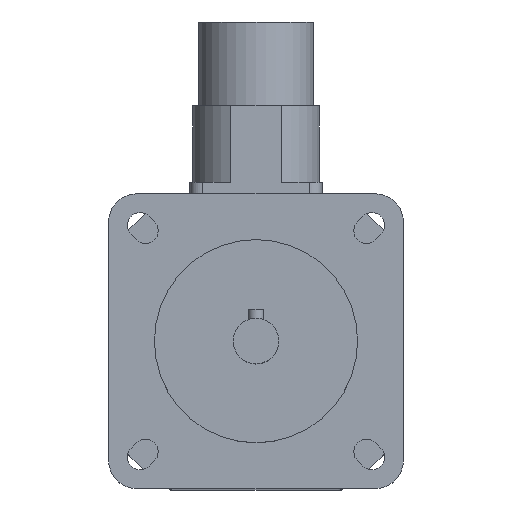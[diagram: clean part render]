
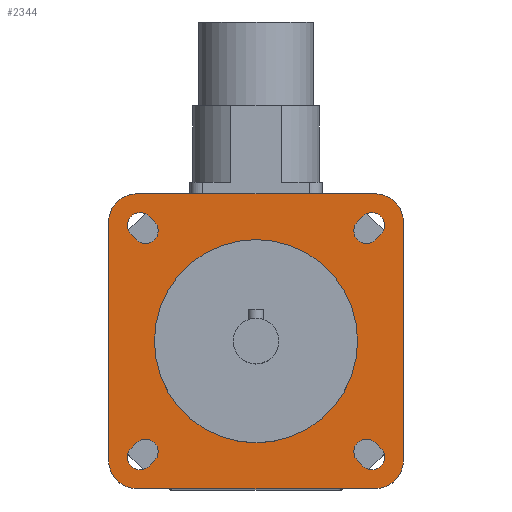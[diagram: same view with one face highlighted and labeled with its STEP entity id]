
A CAD part, top view. The second image highlights one B-rep face of the part: STEP entity #2344.
In plain terms, the highlighted planar face has unit normal (0, 0, 1).
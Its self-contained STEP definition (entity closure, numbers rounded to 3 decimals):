
#28=FACE_BOUND('',#421,.T.);
#29=FACE_BOUND('',#422,.T.);
#30=FACE_BOUND('',#423,.T.);
#31=FACE_BOUND('',#424,.T.);
#32=FACE_BOUND('',#425,.T.);
#46=CIRCLE('',#2435,20.);
#83=CIRCLE('',#2499,2.5);
#87=CIRCLE('',#2506,2.5);
#88=CIRCLE('',#2509,2.5);
#89=CIRCLE('',#2512,2.5);
#99=CIRCLE('',#2527,2.5);
#100=CIRCLE('',#2530,2.5);
#101=CIRCLE('',#2533,2.5);
#102=CIRCLE('',#2536,2.5);
#103=CIRCLE('',#2538,5.5);
#104=CIRCLE('',#2540,5.5);
#105=CIRCLE('',#2542,5.5);
#106=CIRCLE('',#2544,5.5);
#281=FACE_OUTER_BOUND('',#420,.T.);
#420=EDGE_LOOP('',(#1806,#1807,#1808,#1809,#1810,#1811,#1812,#1813));
#421=EDGE_LOOP('',(#1814));
#422=EDGE_LOOP('',(#1815,#1816,#1817,#1818));
#423=EDGE_LOOP('',(#1819,#1820,#1821,#1822));
#424=EDGE_LOOP('',(#1823,#1824,#1825,#1826));
#425=EDGE_LOOP('',(#1827,#1828,#1829,#1830));
#564=LINE('',#3642,#783);
#572=LINE('',#3666,#791);
#576=LINE('',#3676,#795);
#580=LINE('',#3686,#799);
#596=LINE('',#3737,#815);
#598=LINE('',#3743,#817);
#600=LINE('',#3749,#819);
#602=LINE('',#3755,#821);
#611=LINE('',#3783,#830);
#612=LINE('',#3784,#831);
#613=LINE('',#3785,#832);
#614=LINE('',#3786,#833);
#783=VECTOR('',#2885,1.5);
#791=VECTOR('',#2907,1.5);
#795=VECTOR('',#2917,1.5);
#799=VECTOR('',#2927,1.5);
#815=VECTOR('',#2973,1.5);
#817=VECTOR('',#2981,1.5);
#819=VECTOR('',#2989,1.5);
#821=VECTOR('',#2997,1.5);
#830=VECTOR('',#3028,47.);
#831=VECTOR('',#3029,47.);
#832=VECTOR('',#3030,47.);
#833=VECTOR('',#3031,47.);
#956=VERTEX_POINT('',#3463);
#1021=VERTEX_POINT('',#3639);
#1022=VERTEX_POINT('',#3641);
#1023=VERTEX_POINT('',#3645);
#1030=VERTEX_POINT('',#3663);
#1031=VERTEX_POINT('',#3665);
#1032=VERTEX_POINT('',#3669);
#1033=VERTEX_POINT('',#3673);
#1034=VERTEX_POINT('',#3675);
#1035=VERTEX_POINT('',#3679);
#1036=VERTEX_POINT('',#3683);
#1037=VERTEX_POINT('',#3685);
#1038=VERTEX_POINT('',#3689);
#1057=VERTEX_POINT('',#3735);
#1058=VERTEX_POINT('',#3741);
#1059=VERTEX_POINT('',#3747);
#1060=VERTEX_POINT('',#3753);
#1061=VERTEX_POINT('',#3759);
#1062=VERTEX_POINT('',#3761);
#1063=VERTEX_POINT('',#3765);
#1064=VERTEX_POINT('',#3767);
#1065=VERTEX_POINT('',#3771);
#1066=VERTEX_POINT('',#3773);
#1067=VERTEX_POINT('',#3777);
#1068=VERTEX_POINT('',#3779);
#1190=EDGE_CURVE('',#956,#956,#46,.T.);
#1276=EDGE_CURVE('',#1022,#1021,#564,.T.);
#1279=EDGE_CURVE('',#1021,#1023,#83,.T.);
#1288=EDGE_CURVE('',#1031,#1030,#572,.T.);
#1291=EDGE_CURVE('',#1030,#1032,#87,.T.);
#1293=EDGE_CURVE('',#1034,#1033,#576,.T.);
#1296=EDGE_CURVE('',#1033,#1035,#88,.T.);
#1298=EDGE_CURVE('',#1037,#1036,#580,.T.);
#1301=EDGE_CURVE('',#1036,#1038,#89,.T.);
#1324=EDGE_CURVE('',#1035,#1057,#596,.T.);
#1325=EDGE_CURVE('',#1057,#1034,#99,.T.);
#1327=EDGE_CURVE('',#1032,#1058,#598,.T.);
#1328=EDGE_CURVE('',#1058,#1031,#100,.T.);
#1330=EDGE_CURVE('',#1038,#1059,#600,.T.);
#1331=EDGE_CURVE('',#1059,#1037,#101,.T.);
#1333=EDGE_CURVE('',#1023,#1060,#602,.T.);
#1334=EDGE_CURVE('',#1060,#1022,#102,.T.);
#1336=EDGE_CURVE('',#1062,#1061,#103,.T.);
#1339=EDGE_CURVE('',#1064,#1063,#104,.T.);
#1342=EDGE_CURVE('',#1066,#1065,#105,.T.);
#1345=EDGE_CURVE('',#1068,#1067,#106,.T.);
#1347=EDGE_CURVE('',#1061,#1068,#611,.T.);
#1348=EDGE_CURVE('',#1067,#1066,#612,.T.);
#1349=EDGE_CURVE('',#1065,#1064,#613,.T.);
#1350=EDGE_CURVE('',#1063,#1062,#614,.T.);
#1806=ORIENTED_EDGE('',*,*,#1347,.T.);
#1807=ORIENTED_EDGE('',*,*,#1345,.T.);
#1808=ORIENTED_EDGE('',*,*,#1348,.T.);
#1809=ORIENTED_EDGE('',*,*,#1342,.T.);
#1810=ORIENTED_EDGE('',*,*,#1349,.T.);
#1811=ORIENTED_EDGE('',*,*,#1339,.T.);
#1812=ORIENTED_EDGE('',*,*,#1350,.T.);
#1813=ORIENTED_EDGE('',*,*,#1336,.T.);
#1814=ORIENTED_EDGE('',*,*,#1190,.T.);
#1815=ORIENTED_EDGE('',*,*,#1324,.T.);
#1816=ORIENTED_EDGE('',*,*,#1325,.T.);
#1817=ORIENTED_EDGE('',*,*,#1293,.T.);
#1818=ORIENTED_EDGE('',*,*,#1296,.T.);
#1819=ORIENTED_EDGE('',*,*,#1327,.T.);
#1820=ORIENTED_EDGE('',*,*,#1328,.T.);
#1821=ORIENTED_EDGE('',*,*,#1288,.T.);
#1822=ORIENTED_EDGE('',*,*,#1291,.T.);
#1823=ORIENTED_EDGE('',*,*,#1330,.T.);
#1824=ORIENTED_EDGE('',*,*,#1331,.T.);
#1825=ORIENTED_EDGE('',*,*,#1298,.T.);
#1826=ORIENTED_EDGE('',*,*,#1301,.T.);
#1827=ORIENTED_EDGE('',*,*,#1333,.T.);
#1828=ORIENTED_EDGE('',*,*,#1334,.T.);
#1829=ORIENTED_EDGE('',*,*,#1276,.T.);
#1830=ORIENTED_EDGE('',*,*,#1279,.T.);
#2248=PLANE('',#2545);
#2344=ADVANCED_FACE('',(#281,#28,#29,#30,#31,#32),#2248,.T.);
#2435=AXIS2_PLACEMENT_3D('',#3464,#2710,#2711);
#2499=AXIS2_PLACEMENT_3D('',#3647,#2890,#2891);
#2506=AXIS2_PLACEMENT_3D('',#3671,#2912,#2913);
#2509=AXIS2_PLACEMENT_3D('',#3681,#2922,#2923);
#2512=AXIS2_PLACEMENT_3D('',#3691,#2932,#2933);
#2527=AXIS2_PLACEMENT_3D('',#3739,#2976,#2977);
#2530=AXIS2_PLACEMENT_3D('',#3745,#2984,#2985);
#2533=AXIS2_PLACEMENT_3D('',#3751,#2992,#2993);
#2536=AXIS2_PLACEMENT_3D('',#3757,#3000,#3001);
#2538=AXIS2_PLACEMENT_3D('',#3762,#3005,#3006);
#2540=AXIS2_PLACEMENT_3D('',#3768,#3011,#3012);
#2542=AXIS2_PLACEMENT_3D('',#3774,#3017,#3018);
#2544=AXIS2_PLACEMENT_3D('',#3780,#3023,#3024);
#2545=AXIS2_PLACEMENT_3D('',#3782,#3026,#3027);
#2710=DIRECTION('center_axis',(0.,0.,-1.));
#2711=DIRECTION('ref_axis',(-1.,0.,0.));
#2885=DIRECTION('',(-0.707,-0.707,0.));
#2890=DIRECTION('center_axis',(0.,0.,-1.));
#2891=DIRECTION('ref_axis',(0.707,-0.707,0.));
#2907=DIRECTION('',(-0.707,0.707,0.));
#2912=DIRECTION('center_axis',(0.,0.,-1.));
#2913=DIRECTION('ref_axis',(-0.707,-0.707,0.));
#2917=DIRECTION('',(-0.707,-0.707,0.));
#2922=DIRECTION('center_axis',(0.,0.,-1.));
#2923=DIRECTION('ref_axis',(0.707,-0.707,0.));
#2927=DIRECTION('',(-0.707,0.707,0.));
#2932=DIRECTION('center_axis',(0.,0.,-1.));
#2933=DIRECTION('ref_axis',(-0.707,-0.707,0.));
#2973=DIRECTION('',(0.707,0.707,0.));
#2976=DIRECTION('center_axis',(0.,0.,-1.));
#2977=DIRECTION('ref_axis',(-0.707,0.707,0.));
#2981=DIRECTION('',(0.707,-0.707,0.));
#2984=DIRECTION('center_axis',(0.,0.,-1.));
#2985=DIRECTION('ref_axis',(0.707,0.707,0.));
#2989=DIRECTION('',(0.707,-0.707,0.));
#2992=DIRECTION('center_axis',(0.,0.,-1.));
#2993=DIRECTION('ref_axis',(0.707,0.707,0.));
#2997=DIRECTION('',(0.707,0.707,0.));
#3000=DIRECTION('center_axis',(0.,0.,-1.));
#3001=DIRECTION('ref_axis',(-0.707,0.707,0.));
#3005=DIRECTION('center_axis',(0.,0.,1.));
#3006=DIRECTION('ref_axis',(1.,0.,0.));
#3011=DIRECTION('center_axis',(0.,0.,1.));
#3012=DIRECTION('ref_axis',(0.,-1.,0.));
#3017=DIRECTION('center_axis',(0.,0.,1.));
#3018=DIRECTION('ref_axis',(-1.,0.,0.));
#3023=DIRECTION('center_axis',(0.,0.,1.));
#3024=DIRECTION('ref_axis',(0.,1.,0.));
#3026=DIRECTION('center_axis',(0.,0.,1.));
#3027=DIRECTION('ref_axis',(1.,0.,0.));
#3028=DIRECTION('',(-1.,0.,0.));
#3029=DIRECTION('',(0.,-1.,0.));
#3030=DIRECTION('',(1.,0.,0.));
#3031=DIRECTION('',(0.,1.,0.));
#3463=CARTESIAN_POINT('',(20.,0.,144.));
#3464=CARTESIAN_POINT('Origin',(0.,0.,144.));
#3639=CARTESIAN_POINT('',(-21.036,-24.572,144.));
#3641=CARTESIAN_POINT('',(-19.976,-23.511,144.));
#3642=CARTESIAN_POINT('',(-9.634,-13.17,144.));
#3645=CARTESIAN_POINT('',(-24.572,-21.036,144.));
#3647=CARTESIAN_POINT('Origin',(-22.804,-22.804,144.));
#3663=CARTESIAN_POINT('',(-24.572,21.036,144.));
#3665=CARTESIAN_POINT('',(-23.511,19.976,144.));
#3666=CARTESIAN_POINT('',(-13.17,9.634,144.));
#3669=CARTESIAN_POINT('',(-21.036,24.572,144.));
#3671=CARTESIAN_POINT('Origin',(-22.804,22.804,144.));
#3673=CARTESIAN_POINT('',(23.511,19.976,144.));
#3675=CARTESIAN_POINT('',(24.572,21.036,144.));
#3676=CARTESIAN_POINT('',(12.64,9.104,144.));
#3679=CARTESIAN_POINT('',(19.976,23.511,144.));
#3681=CARTESIAN_POINT('Origin',(21.744,21.744,144.));
#3683=CARTESIAN_POINT('',(19.976,-23.511,144.));
#3685=CARTESIAN_POINT('',(21.036,-24.572,144.));
#3686=CARTESIAN_POINT('',(9.104,-12.64,144.));
#3689=CARTESIAN_POINT('',(23.511,-19.976,144.));
#3691=CARTESIAN_POINT('Origin',(21.744,-21.744,144.));
#3735=CARTESIAN_POINT('',(21.036,24.572,144.));
#3737=CARTESIAN_POINT('',(9.634,13.17,144.));
#3739=CARTESIAN_POINT('Origin',(22.804,22.804,144.));
#3741=CARTESIAN_POINT('',(-19.976,23.511,144.));
#3743=CARTESIAN_POINT('',(-9.104,12.64,144.));
#3745=CARTESIAN_POINT('Origin',(-21.744,21.744,144.));
#3747=CARTESIAN_POINT('',(24.572,-21.036,144.));
#3749=CARTESIAN_POINT('',(13.17,-9.634,144.));
#3751=CARTESIAN_POINT('Origin',(22.804,-22.804,144.));
#3753=CARTESIAN_POINT('',(-23.511,-19.976,144.));
#3755=CARTESIAN_POINT('',(-12.64,-9.104,144.));
#3757=CARTESIAN_POINT('Origin',(-21.744,-21.744,144.));
#3759=CARTESIAN_POINT('',(23.5,29.,144.));
#3761=CARTESIAN_POINT('',(29.,23.5,144.));
#3762=CARTESIAN_POINT('Origin',(23.5,23.5,144.));
#3765=CARTESIAN_POINT('',(29.,-23.5,144.));
#3767=CARTESIAN_POINT('',(23.5,-29.,144.));
#3768=CARTESIAN_POINT('Origin',(23.5,-23.5,144.));
#3771=CARTESIAN_POINT('',(-23.5,-29.,144.));
#3773=CARTESIAN_POINT('',(-29.,-23.5,144.));
#3774=CARTESIAN_POINT('Origin',(-23.5,-23.5,144.));
#3777=CARTESIAN_POINT('',(-29.,23.5,144.));
#3779=CARTESIAN_POINT('',(-23.5,29.,144.));
#3780=CARTESIAN_POINT('Origin',(-23.5,23.5,144.));
#3782=CARTESIAN_POINT('Origin',(0.,0.,
144.));
#3783=CARTESIAN_POINT('',(23.5,29.,144.));
#3784=CARTESIAN_POINT('',(-29.,23.5,144.));
#3785=CARTESIAN_POINT('',(-23.5,-29.,144.));
#3786=CARTESIAN_POINT('',(29.,-23.5,144.));
